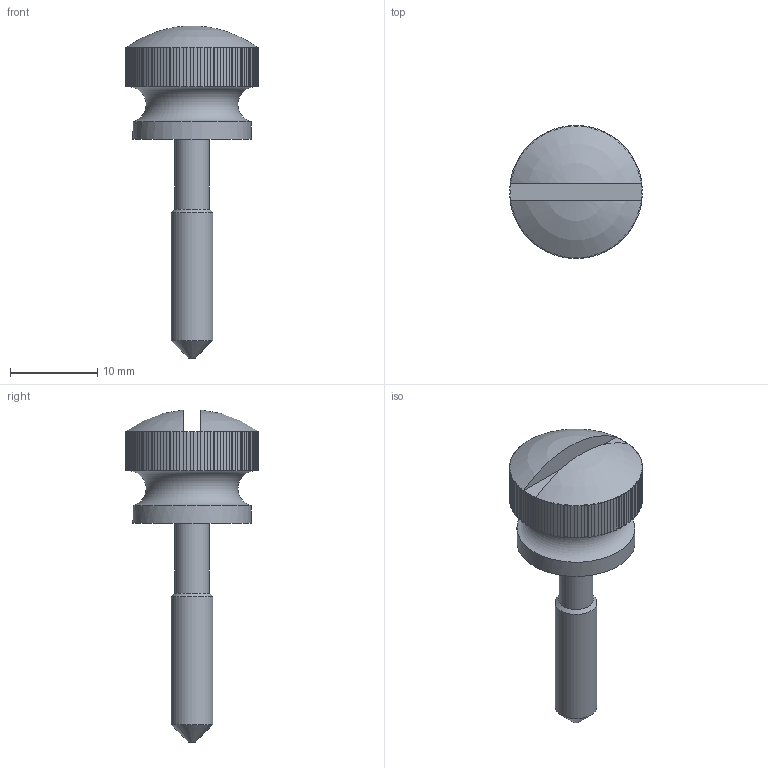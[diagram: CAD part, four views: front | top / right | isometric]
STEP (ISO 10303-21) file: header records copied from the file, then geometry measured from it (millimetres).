
FILE_DESCRIPTION(/* description */ (''),/* implementation_level */ '2;1');
FILE_NAME(/* name */ '\\SYNOLOGYNAS\web\db2\K-HSH15-M5_M\도면\M5\K-HSH15-M5-25.stp',/* time_stamp */ '2024-10-14T14:06:10+09:00',/* author */ ('user'),/* organization */ (''),/* preprocessor_version */ 'ST-DEVELOPER v15.6',/* originating_system */ 'Autodesk Inventor 2015',/* authorisation */ '');
FILE_SCHEMA (('AUTOMOTIVE_DESIGN { 1 0 10303 214 3 1 1 }'));
Length unit declared in the file: millimetre
Products named in the file (1): K-HSH15-M5-25
Bounding box: 15.19 x 15.2 x 37.96 mm (x, y, z)
Volume: 2060.2 mm3; surface area: 1316.1 mm2
Topology: 1 solids, 1 shells, 308 faces, 798 edges, 494 vertices
Faces by surface type: plane 240, cylinder 63, cone 2, sphere 2, torus 1
Full cylindrical faces by diameter (mm): 3.9 x1, 4.8 x1, 13.5 x1
Entity records: 9514 total; most frequent: CARTESIAN_POINT 2251, ORIENTED_EDGE 1580, DIRECTION 1416, EDGE_CURVE 790, AXIS2_PLACEMENT_3D 497, VERTEX_POINT 492, LINE 422, VECTOR 422
